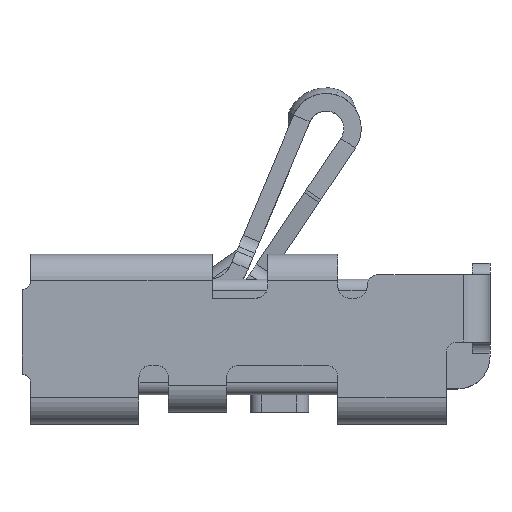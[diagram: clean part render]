
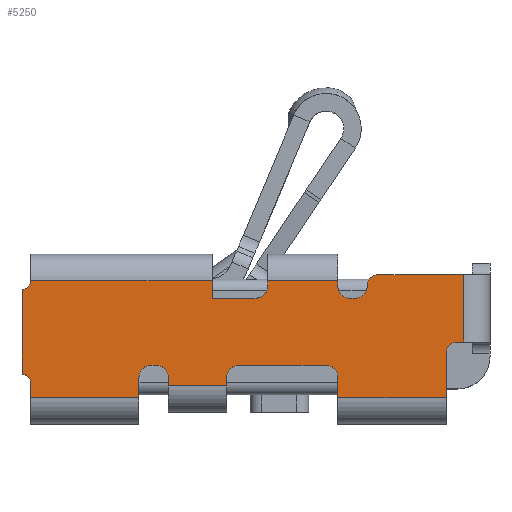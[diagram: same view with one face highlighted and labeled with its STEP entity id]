
A CAD part, top view. The second image highlights one B-rep face of the part: STEP entity #5250.
In plain terms, the highlighted planar face has unit normal (0, 0, 1).
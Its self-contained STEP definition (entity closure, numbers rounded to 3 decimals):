
#580=DIRECTION('',(0.,-1.,0.));
#581=VECTOR('',#580,0.05);
#582=CARTESIAN_POINT('',(-1.46,-0.02,0.3));
#583=LINE('',#582,#581);
#702=CARTESIAN_POINT('',(-1.05,0.,0.3));
#703=DIRECTION('',(0.,0.,1.));
#704=DIRECTION('',(0.,1.,0.));
#705=AXIS2_PLACEMENT_3D('',#702,#703,#704);
#707=CARTESIAN_POINT('',(-1.49,-0.02,0.3));
#708=DIRECTION('',(0.,0.,1.));
#709=DIRECTION('',(1.,0.,0.));
#710=AXIS2_PLACEMENT_3D('',#707,#708,#709);
#712=DIRECTION('',(0.,1.,0.));
#713=VECTOR('',#712,0.29);
#714=CARTESIAN_POINT('',(-1.49,0.01,0.3));
#715=LINE('',#714,#713);
#716=CARTESIAN_POINT('',(-1.49,0.33,0.3));
#717=DIRECTION('',(0.,0.,1.));
#718=DIRECTION('',(0.,-1.,0.));
#719=AXIS2_PLACEMENT_3D('',#716,#717,#718);
#721=CARTESIAN_POINT('',(-0.69,0.31,0.3));
#722=DIRECTION('',(0.,0.,1.));
#723=DIRECTION('',(0.,-1.,0.));
#724=AXIS2_PLACEMENT_3D('',#721,#722,#723);
#726=DIRECTION('',(0.,1.,0.));
#727=VECTOR('',#726,0.02);
#728=CARTESIAN_POINT('',(-0.65,0.31,0.3));
#729=LINE('',#728,#727);
#730=CARTESIAN_POINT('',(-0.37,0.31,0.3));
#731=DIRECTION('',(0.,0.,1.));
#732=DIRECTION('',(-1.,0.,0.));
#733=AXIS2_PLACEMENT_3D('',#730,#731,#732);
#735=CARTESIAN_POINT('',(-0.35,0.31,0.3));
#736=DIRECTION('',(0.,0.,1.));
#737=DIRECTION('',(0.,-1.,0.));
#738=AXIS2_PLACEMENT_3D('',#735,#736,#737);
#740=CARTESIAN_POINT('',(-0.27,0.31,0.3));
#741=DIRECTION('',(0.,0.,-1.));
#742=DIRECTION('',(-1.,0.,0.));
#743=AXIS2_PLACEMENT_3D('',#740,#741,#742);
#745=DIRECTION('',(1.,0.,0.));
#746=VECTOR('',#745,0.29);
#747=CARTESIAN_POINT('',(-0.27,0.35,0.3));
#748=LINE('',#747,#746);
#749=CARTESIAN_POINT('',(0.,0.08,0.3));
#750=DIRECTION('',(0.,0.,1.));
#751=DIRECTION('',(0.,1.,0.));
#752=AXIS2_PLACEMENT_3D('',#749,#750,#751);
#754=DIRECTION('',(0.,-1.,0.));
#755=VECTOR('',#754,0.15);
#756=CARTESIAN_POINT('',(-0.04,0.08,0.3));
#757=LINE('',#756,#755);
#758=CARTESIAN_POINT('',(-0.45,0.,0.3));
#759=DIRECTION('',(0.,0.,1.));
#760=DIRECTION('',(1.,0.,0.));
#761=AXIS2_PLACEMENT_3D('',#758,#759,#760);
#763=CARTESIAN_POINT('',(-0.75,0.,0.3));
#764=DIRECTION('',(0.,0.,1.));
#765=DIRECTION('',(0.,1.,0.));
#766=AXIS2_PLACEMENT_3D('',#763,#764,#765);
#768=DIRECTION('',(0.,-1.,0.));
#769=VECTOR('',#768,0.03);
#770=CARTESIAN_POINT('',(-0.79,0.,0.3));
#771=LINE('',#770,#769);
#772=CARTESIAN_POINT('',(-1.03,0.,0.3));
#773=DIRECTION('',(0.,0.,1.));
#774=DIRECTION('',(1.,0.,0.));
#775=AXIS2_PLACEMENT_3D('',#772,#773,#774);
#781=DIRECTION('',(1.,0.,0.));
#782=VECTOR('',#781,0.02);
#783=CARTESIAN_POINT('',(-1.05,0.04,0.3));
#784=LINE('',#783,#782);
#858=DIRECTION('',(0.,-1.,0.));
#859=VECTOR('',#858,0.03);
#860=CARTESIAN_POINT('',(-0.99,0.,0.3));
#861=LINE('',#860,#859);
#899=DIRECTION('',(0.,1.,0.));
#900=VECTOR('',#899,0.07);
#901=CARTESIAN_POINT('',(-1.09,-0.07,0.3));
#902=LINE('',#901,#900);
#963=DIRECTION('',(1.,0.,0.));
#964=VECTOR('',#963,0.37);
#965=CARTESIAN_POINT('',(-1.46,-0.07,0.3));
#966=LINE('',#965,#964);
#997=DIRECTION('',(1.,0.,0.));
#998=VECTOR('',#997,0.2);
#999=CARTESIAN_POINT('',(-0.99,-0.03,0.3));
#1000=LINE('',#999,#998);
#1040=DIRECTION('',(1.,0.,0.));
#1041=VECTOR('',#1040,0.3);
#1042=CARTESIAN_POINT('',(-0.75,0.04,0.3));
#1043=LINE('',#1042,#1041);
#1061=DIRECTION('',(0.,-1.,0.));
#1062=VECTOR('',#1061,0.07);
#1063=CARTESIAN_POINT('',(-0.41,0.,0.3));
#1064=LINE('',#1063,#1062);
#1083=DIRECTION('',(1.,0.,0.));
#1084=VECTOR('',#1083,0.37);
#1085=CARTESIAN_POINT('',(-0.41,-0.07,0.3));
#1086=LINE('',#1085,#1084);
#2021=DIRECTION('',(-1.,0.,0.));
#2022=VECTOR('',#2021,0.02);
#2023=CARTESIAN_POINT('',(-0.35,0.27,0.3));
#2024=LINE('',#2023,#2022);
#2044=DIRECTION('',(0.,1.,0.));
#2045=VECTOR('',#2044,0.02);
#2046=CARTESIAN_POINT('',(-0.41,0.31,0.3));
#2047=LINE('',#2046,#2045);
#2102=DIRECTION('',(-1.,0.,0.));
#2103=VECTOR('',#2102,0.15);
#2104=CARTESIAN_POINT('',(-0.69,0.27,0.3));
#2105=LINE('',#2104,#2103);
#2119=DIRECTION('',(0.,1.,0.));
#2120=VECTOR('',#2119,0.06);
#2121=CARTESIAN_POINT('',(-0.84,0.27,0.3));
#2122=LINE('',#2121,#2120);
#2272=DIRECTION('',(-1.,0.,0.));
#2273=VECTOR('',#2272,0.62);
#2274=CARTESIAN_POINT('',(-0.84,0.33,0.3));
#2275=LINE('',#2274,#2273);
#2396=DIRECTION('',(-1.,0.,0.));
#2397=VECTOR('',#2396,0.24);
#2398=CARTESIAN_POINT('',(-0.41,0.33,0.3));
#2399=LINE('',#2398,#2397);
#2475=DIRECTION('',(0.,1.,0.));
#2476=VECTOR('',#2475,0.23);
#2477=CARTESIAN_POINT('',(0.02,0.12,0.3));
#2478=LINE('',#2477,#2476);
#2500=DIRECTION('',(1.,0.,0.));
#2501=VECTOR('',#2500,0.02);
#2502=CARTESIAN_POINT('',(0.,0.12,0.3));
#2503=LINE('',#2502,#2501);
#3509=CARTESIAN_POINT('',(0.02,0.35,0.3));
#3510=VERTEX_POINT('',#3509);
#3511=CARTESIAN_POINT('',(0.02,0.12,0.3));
#3512=VERTEX_POINT('',#3511);
#3513=CARTESIAN_POINT('',(0.,0.12,0.3));
#3514=VERTEX_POINT('',#3513);
#3529=CARTESIAN_POINT('',(-1.05,0.04,0.3));
#3530=CARTESIAN_POINT('',(-1.03,0.04,0.3));
#3531=VERTEX_POINT('',#3529);
#3532=VERTEX_POINT('',#3530);
#3533=CARTESIAN_POINT('',(-1.09,0.,0.3));
#3534=VERTEX_POINT('',#3533);
#3535=CARTESIAN_POINT('',(-1.09,-0.07,0.3));
#3536=VERTEX_POINT('',#3535);
#3543=CARTESIAN_POINT('',(-1.46,-0.07,0.3));
#3545=VERTEX_POINT('',#3543);
#3547=CARTESIAN_POINT('',(-1.46,-0.02,0.3));
#3548=VERTEX_POINT('',#3547);
#3549=CARTESIAN_POINT('',(-1.49,0.01,0.3));
#3550=VERTEX_POINT('',#3549);
#3551=CARTESIAN_POINT('',(-1.49,0.3,0.3));
#3552=VERTEX_POINT('',#3551);
#3553=CARTESIAN_POINT('',(-1.46,0.33,0.3));
#3554=VERTEX_POINT('',#3553);
#3561=CARTESIAN_POINT('',(-0.84,0.33,0.3));
#3563=VERTEX_POINT('',#3561);
#3565=CARTESIAN_POINT('',(-0.84,0.27,0.3));
#3566=VERTEX_POINT('',#3565);
#3567=CARTESIAN_POINT('',(-0.69,0.27,0.3));
#3568=VERTEX_POINT('',#3567);
#3569=CARTESIAN_POINT('',(-0.65,0.31,0.3));
#3570=VERTEX_POINT('',#3569);
#3571=CARTESIAN_POINT('',(-0.65,0.33,0.3));
#3572=VERTEX_POINT('',#3571);
#3579=CARTESIAN_POINT('',(-0.41,0.33,0.3));
#3581=VERTEX_POINT('',#3579);
#3583=CARTESIAN_POINT('',(-0.41,0.31,0.3));
#3584=VERTEX_POINT('',#3583);
#3585=CARTESIAN_POINT('',(-0.37,0.27,0.3));
#3586=VERTEX_POINT('',#3585);
#3587=CARTESIAN_POINT('',(-0.35,0.27,0.3));
#3588=VERTEX_POINT('',#3587);
#3589=CARTESIAN_POINT('',(-0.31,0.31,0.3));
#3590=VERTEX_POINT('',#3589);
#3591=CARTESIAN_POINT('',(-0.27,0.35,0.3));
#3592=VERTEX_POINT('',#3591);
#3593=CARTESIAN_POINT('',(-0.04,0.08,0.3));
#3594=VERTEX_POINT('',#3593);
#3595=CARTESIAN_POINT('',(-0.04,-0.07,0.3));
#3596=VERTEX_POINT('',#3595);
#3597=CARTESIAN_POINT('',(-0.41,-0.07,0.3));
#3598=VERTEX_POINT('',#3597);
#3599=CARTESIAN_POINT('',(-0.41,0.,0.3));
#3600=VERTEX_POINT('',#3599);
#3601=CARTESIAN_POINT('',(-0.45,0.04,0.3));
#3602=VERTEX_POINT('',#3601);
#3603=CARTESIAN_POINT('',(-0.75,0.04,0.3));
#3604=VERTEX_POINT('',#3603);
#3605=CARTESIAN_POINT('',(-0.79,0.,0.3));
#3606=VERTEX_POINT('',#3605);
#3607=CARTESIAN_POINT('',(-0.79,-0.03,0.3));
#3608=VERTEX_POINT('',#3607);
#3609=CARTESIAN_POINT('',(-0.99,-0.03,0.3));
#3610=VERTEX_POINT('',#3609);
#3611=CARTESIAN_POINT('',(-0.99,0.,0.3));
#3612=VERTEX_POINT('',#3611);
#5180=CARTESIAN_POINT('',(0.02,0.42,0.3));
#5181=DIRECTION('',(0.,0.,-1.));
#5182=DIRECTION('',(-1.,0.,0.));
#5183=AXIS2_PLACEMENT_3D('',#5180,#5181,#5182);
#5184=PLANE('',#5183);
#5186=ORIENTED_EDGE('',*,*,#5185,.F.);
#5188=ORIENTED_EDGE('',*,*,#5187,.T.);
#5190=ORIENTED_EDGE('',*,*,#5189,.F.);
#5192=ORIENTED_EDGE('',*,*,#5191,.F.);
#5193=ORIENTED_EDGE('',*,*,#5041,.F.);
#5195=ORIENTED_EDGE('',*,*,#5194,.T.);
#5197=ORIENTED_EDGE('',*,*,#5196,.T.);
#5198=ORIENTED_EDGE('',*,*,#5173,.T.);
#5200=ORIENTED_EDGE('',*,*,#5199,.F.);
#5202=ORIENTED_EDGE('',*,*,#5201,.F.);
#5204=ORIENTED_EDGE('',*,*,#5203,.F.);
#5206=ORIENTED_EDGE('',*,*,#5205,.T.);
#5208=ORIENTED_EDGE('',*,*,#5207,.T.);
#5210=ORIENTED_EDGE('',*,*,#5209,.F.);
#5212=ORIENTED_EDGE('',*,*,#5211,.F.);
#5214=ORIENTED_EDGE('',*,*,#5213,.T.);
#5216=ORIENTED_EDGE('',*,*,#5215,.F.);
#5218=ORIENTED_EDGE('',*,*,#5217,.T.);
#5220=ORIENTED_EDGE('',*,*,#5219,.T.);
#5222=ORIENTED_EDGE('',*,*,#5221,.T.);
#5224=ORIENTED_EDGE('',*,*,#5223,.F.);
#5226=ORIENTED_EDGE('',*,*,#5225,.F.);
#5228=ORIENTED_EDGE('',*,*,#5227,.T.);
#5229=ORIENTED_EDGE('',*,*,#4296,.T.);
#5231=ORIENTED_EDGE('',*,*,#5230,.F.);
#5233=ORIENTED_EDGE('',*,*,#5232,.F.);
#5235=ORIENTED_EDGE('',*,*,#5234,.T.);
#5237=ORIENTED_EDGE('',*,*,#5236,.F.);
#5239=ORIENTED_EDGE('',*,*,#5238,.T.);
#5241=ORIENTED_EDGE('',*,*,#5240,.T.);
#5243=ORIENTED_EDGE('',*,*,#5242,.F.);
#5245=ORIENTED_EDGE('',*,*,#5244,.F.);
#5247=ORIENTED_EDGE('',*,*,#5246,.T.);
#5248=EDGE_LOOP('',(#5186,#5188,#5190,#5192,#5193,#5195,#5197,#5198,#5200,#5202,
#5204,#5206,#5208,#5210,#5212,#5214,#5216,#5218,#5220,#5222,#5224,#5226,#5228,
#5229,#5231,#5233,#5235,#5237,#5239,#5241,#5243,#5245,#5247));
#5249=FACE_OUTER_BOUND('',#5248,.F.);
#5250=ADVANCED_FACE('',(#5249),#5184,.F.);
#706=CIRCLE('',#705,0.04);
#711=CIRCLE('',#710,0.03);
#720=CIRCLE('',#719,0.03);
#725=CIRCLE('',#724,0.04);
#734=CIRCLE('',#733,0.04);
#739=CIRCLE('',#738,0.04);
#744=CIRCLE('',#743,0.04);
#753=CIRCLE('',#752,0.04);
#762=CIRCLE('',#761,0.04);
#767=CIRCLE('',#766,0.04);
#776=CIRCLE('',#775,0.04);
#4296=EDGE_CURVE('',#3594,#3596,#757,.T.);
#5041=EDGE_CURVE('',#3548,#3545,#583,.T.);
#5173=EDGE_CURVE('',#3552,#3554,#720,.T.);
#5185=EDGE_CURVE('',#3531,#3532,#784,.T.);
#5187=EDGE_CURVE('',#3531,#3534,#706,.T.);
#5189=EDGE_CURVE('',#3536,#3534,#902,.T.);
#5191=EDGE_CURVE('',#3545,#3536,#966,.T.);
#5194=EDGE_CURVE('',#3548,#3550,#711,.T.);
#5196=EDGE_CURVE('',#3550,#3552,#715,.T.);
#5199=EDGE_CURVE('',#3563,#3554,#2275,.T.);
#5201=EDGE_CURVE('',#3566,#3563,#2122,.T.);
#5203=EDGE_CURVE('',#3568,#3566,#2105,.T.);
#5205=EDGE_CURVE('',#3568,#3570,#725,.T.);
#5207=EDGE_CURVE('',#3570,#3572,#729,.T.);
#5209=EDGE_CURVE('',#3581,#3572,#2399,.T.);
#5211=EDGE_CURVE('',#3584,#3581,#2047,.T.);
#5213=EDGE_CURVE('',#3584,#3586,#734,.T.);
#5215=EDGE_CURVE('',#3588,#3586,#2024,.T.);
#5217=EDGE_CURVE('',#3588,#3590,#739,.T.);
#5219=EDGE_CURVE('',#3590,#3592,#744,.T.);
#5221=EDGE_CURVE('',#3592,#3510,#748,.T.);
#5223=EDGE_CURVE('',#3512,#3510,#2478,.T.);
#5225=EDGE_CURVE('',#3514,#3512,#2503,.T.);
#5227=EDGE_CURVE('',#3514,#3594,#753,.T.);
#5230=EDGE_CURVE('',#3598,#3596,#1086,.T.);
#5232=EDGE_CURVE('',#3600,#3598,#1064,.T.);
#5234=EDGE_CURVE('',#3600,#3602,#762,.T.);
#5236=EDGE_CURVE('',#3604,#3602,#1043,.T.);
#5238=EDGE_CURVE('',#3604,#3606,#767,.T.);
#5240=EDGE_CURVE('',#3606,#3608,#771,.T.);
#5242=EDGE_CURVE('',#3610,#3608,#1000,.T.);
#5244=EDGE_CURVE('',#3612,#3610,#861,.T.);
#5246=EDGE_CURVE('',#3612,#3532,#776,.T.);
